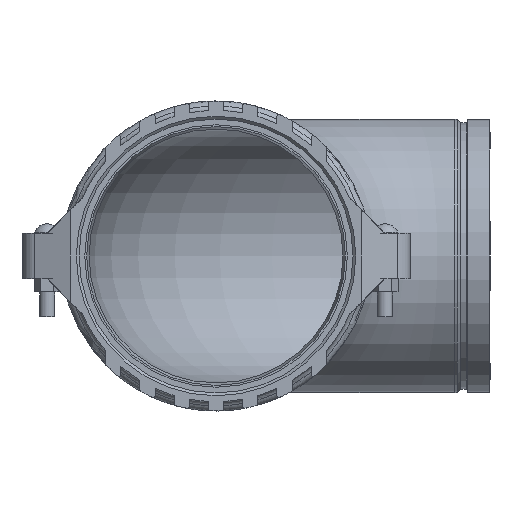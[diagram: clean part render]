
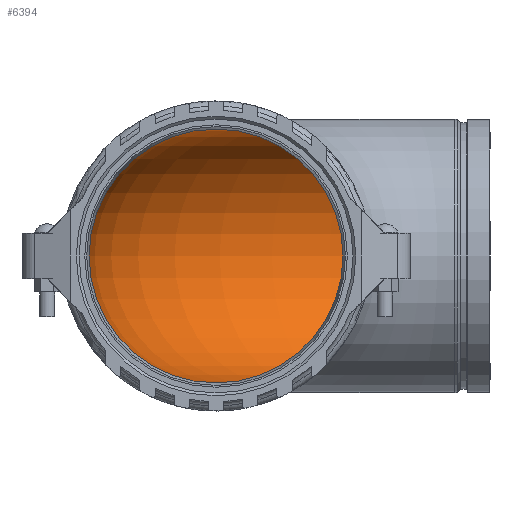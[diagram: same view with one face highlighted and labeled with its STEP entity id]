
A CAD part, left-side view. The second image highlights one B-rep face of the part: STEP entity #6394.
In plain terms, the highlighted toroidal (fillet/blend) face has major radius 398.78 mm and minor radius 211.836 mm.
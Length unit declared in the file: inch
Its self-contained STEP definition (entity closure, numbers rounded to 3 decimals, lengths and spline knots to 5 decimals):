
#284=TOROIDAL_SURFACE('',#7136,15.7,8.34);
#1496=FACE_OUTER_BOUND('',#1833,.T.);
#1833=EDGE_LOOP('',(#5535,#5536,#5537,#5538,#5539));
#2175=CIRCLE('',#7137,8.34);
#2176=CIRCLE('',#7138,7.36);
#2177=CIRCLE('',#7139,8.34);
#2178=CIRCLE('',#7140,8.34);
#2818=VERTEX_POINT('',#13178);
#2819=VERTEX_POINT('',#13180);
#2820=VERTEX_POINT('',#13182);
#3734=EDGE_CURVE('',#2818,#2818,#2175,.T.);
#3735=EDGE_CURVE('',#2818,#2819,#2176,.T.);
#3736=EDGE_CURVE('',#2819,#2820,#2177,.T.);
#3737=EDGE_CURVE('',#2820,#2819,#2178,.T.);
#5535=ORIENTED_EDGE('',*,*,#3734,.F.);
#5536=ORIENTED_EDGE('',*,*,#3735,.T.);
#5537=ORIENTED_EDGE('',*,*,#3736,.T.);
#5538=ORIENTED_EDGE('',*,*,#3737,.T.);
#5539=ORIENTED_EDGE('',*,*,#3735,.F.);
#6394=ADVANCED_FACE('',(#1496),#284,.F.);
#7136=AXIS2_PLACEMENT_3D('',#13177,#8813,#8814);
#7137=AXIS2_PLACEMENT_3D('',#13179,#8815,#8816);
#7138=AXIS2_PLACEMENT_3D('',#13181,#8817,#8818);
#7139=AXIS2_PLACEMENT_3D('',#13183,#8819,#8820);
#7140=AXIS2_PLACEMENT_3D('',#13184,#8821,#8822);
#8813=DIRECTION('center_axis',(0.,0.,-1.));
#8814=DIRECTION('ref_axis',(-1.,0.,0.));
#8815=DIRECTION('center_axis',(0.,1.,0.));
#8816=DIRECTION('ref_axis',(-1.,0.,0.));
#8817=DIRECTION('center_axis',(0.,0.,-1.));
#8818=DIRECTION('ref_axis',(-1.,0.,0.));
#8819=DIRECTION('center_axis',(1.,0.,0.));
#8820=DIRECTION('ref_axis',(0.,1.,0.));
#8821=DIRECTION('center_axis',(1.,0.,0.));
#8822=DIRECTION('ref_axis',(0.,1.,0.));
#13177=CARTESIAN_POINT('Origin',(15.7,-15.7,0.));
#13178=CARTESIAN_POINT('',(8.34,-15.7,0.));
#13179=CARTESIAN_POINT('Origin',(0.,-15.7,0.));
#13180=CARTESIAN_POINT('',(15.7,-8.34,0.));
#13181=CARTESIAN_POINT('Origin',(15.7,-15.7,0.));
#13182=CARTESIAN_POINT('',(15.7,0.,8.34));
#13183=CARTESIAN_POINT('Origin',(15.7,0.,0.));
#13184=CARTESIAN_POINT('Origin',(15.7,0.,0.));
